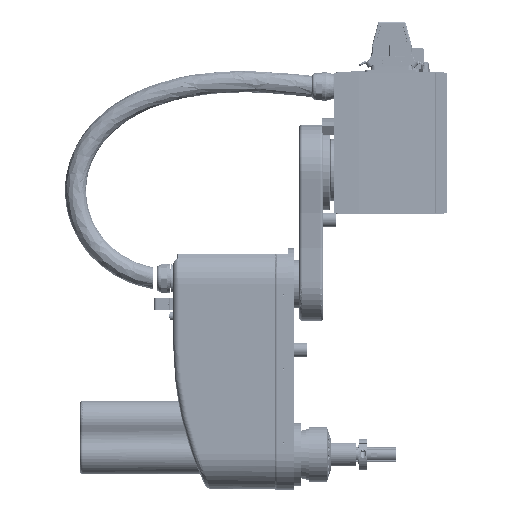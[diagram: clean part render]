
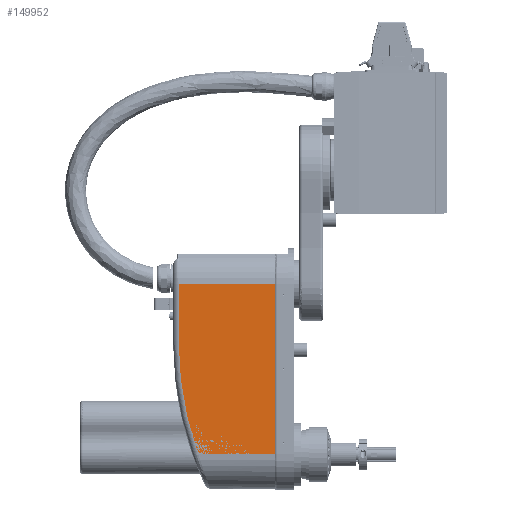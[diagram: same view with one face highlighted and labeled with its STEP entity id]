
A CAD part, left-side view. The second image highlights one B-rep face of the part: STEP entity #149952.
In plain terms, the highlighted planar face has unit normal (-1, 0, 0).
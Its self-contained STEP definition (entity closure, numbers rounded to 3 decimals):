
#10078 = ORIENTED_EDGE ( 'NONE', *, *, #254692, .T. ) ;
#15729 = VERTEX_POINT ( 'NONE', #170103 ) ;
#30472 = VECTOR ( 'NONE', #106131, 1000. ) ;
#42777 = ORIENTED_EDGE ( 'NONE', *, *, #56588, .F. ) ;
#45676 = DIRECTION ( 'NONE',  ( 0., -1., 0. ) ) ;
#54621 = EDGE_LOOP ( 'NONE', ( #10078, #175970, #97255, #42777, #73718 ) ) ;
#56588 = EDGE_CURVE ( 'NONE', #201732, #181172, #90241, .T. ) ;
#64641 = AXIS2_PLACEMENT_3D ( 'NONE', #99052, #153911, #291380 ) ;
#73718 = ORIENTED_EDGE ( 'NONE', *, *, #307614, .F. ) ;
#73800 = CARTESIAN_POINT ( 'NONE',  ( -60.5, 320., -622.5 ) ) ;
#81623 = VECTOR ( 'NONE', #239021, 1000. ) ;
#90241 = LINE ( 'NONE', #157506, #30472 ) ;
#90541 = CARTESIAN_POINT ( 'NONE',  ( -60.5, 454.068, -622.5 ) ) ;
#97255 = ORIENTED_EDGE ( 'NONE', *, *, #200944, .T. ) ;
#99052 = CARTESIAN_POINT ( 'NONE',  ( -60.5, 499., -322.5 ) ) ;
#106131 = DIRECTION ( 'NONE',  ( 0., 0., -1. ) ) ;
#109216 = VECTOR ( 'NONE', #136986, 1000. ) ;
#109370 = LINE ( 'NONE', #182054, #284529 ) ;
#119840 = CARTESIAN_POINT ( 'NONE',  ( -60.5, -101., -422.5 ) ) ;
#136986 = DIRECTION ( 'NONE',  ( 0., -1., 0. ) ) ;
#149952 = ADVANCED_FACE ( 'NONE', ( #167173 ), #262729, .T. ) ;
#153911 = DIRECTION ( 'NONE',  ( -1., 0., 0. ) ) ;
#157506 = CARTESIAN_POINT ( 'NONE',  ( -60.5, 320., -322.5 ) ) ;
#167173 = FACE_OUTER_BOUND ( 'NONE', #54621, .T. ) ;
#170103 = CARTESIAN_POINT ( 'NONE',  ( -60.5, 489., -422.5 ) ) ;
#171498 = LINE ( 'NONE', #293907, #81623 ) ;
#175970 = ORIENTED_EDGE ( 'NONE', *, *, #225550, .T. ) ;
#181172 = VERTEX_POINT ( 'NONE', #73800 ) ;
#182054 = CARTESIAN_POINT ( 'NONE',  ( -60.5, 499., -322.5 ) ) ;
#200358 = VERTEX_POINT ( 'NONE', #90541 ) ;
#200944 = EDGE_CURVE ( 'NONE', #200358, #181172, #327295, .T. ) ;
#201732 = VERTEX_POINT ( 'NONE', #259397 ) ;
#225550 = EDGE_CURVE ( 'NONE', #15729, #200358, #256583, .T. ) ;
#239021 = DIRECTION ( 'NONE',  ( 0., 0., -1. ) ) ;
#244323 = CARTESIAN_POINT ( 'NONE',  ( -60.5, 489., -322.5 ) ) ;
#254692 = EDGE_CURVE ( 'NONE', #344969, #15729, #171498, .T. ) ;
#256583 = CIRCLE ( 'NONE', #329764, 590. ) ;
#259397 = CARTESIAN_POINT ( 'NONE',  ( -60.5, 320., -322.5 ) ) ;
#262729 = PLANE ( 'NONE',  #64641 ) ;
#283493 = DIRECTION ( 'NONE',  ( -1., 0., 0. ) ) ;
#284529 = VECTOR ( 'NONE', #45676, 1000. ) ;
#291380 = DIRECTION ( 'NONE',  ( 0., 0., 1. ) ) ;
#293907 = CARTESIAN_POINT ( 'NONE',  ( -60.5, 489., -422.5 ) ) ;
#301790 = CARTESIAN_POINT ( 'NONE',  ( -60.5, 499., -622.5 ) ) ;
#307614 = EDGE_CURVE ( 'NONE', #344969, #201732, #109370, .T. ) ;
#311025 = DIRECTION ( 'NONE',  ( 0., 0., 1. ) ) ;
#327295 = LINE ( 'NONE', #301790, #109216 ) ;
#329764 = AXIS2_PLACEMENT_3D ( 'NONE', #119840, #283493, #311025 ) ;
#344969 = VERTEX_POINT ( 'NONE', #244323 ) ;
